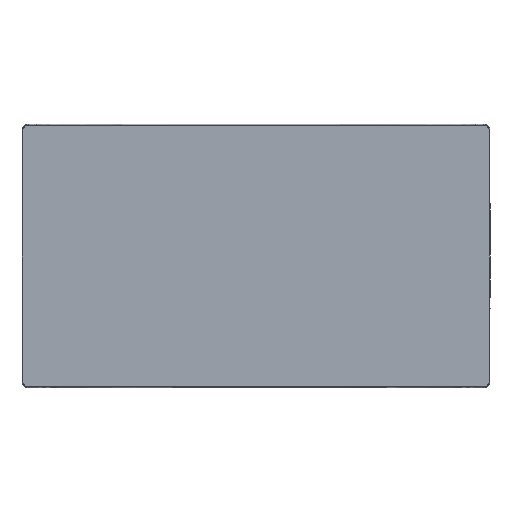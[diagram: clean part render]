
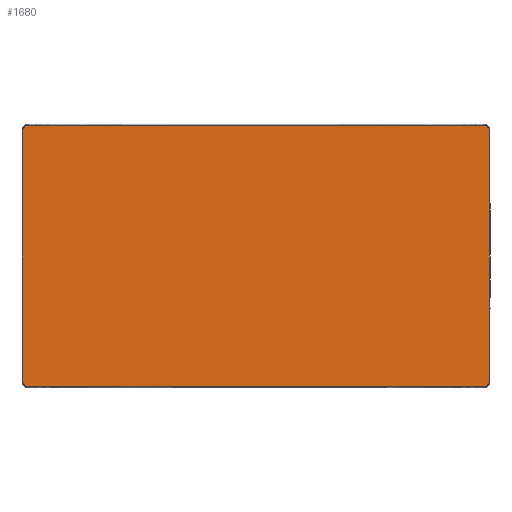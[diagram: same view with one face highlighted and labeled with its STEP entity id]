
A CAD part, top view. The second image highlights one B-rep face of the part: STEP entity #1680.
In plain terms, the highlighted planar face has unit normal (0, 0, 1) as drawn and (0, 0, -1) by its records, which use the part's own axes.
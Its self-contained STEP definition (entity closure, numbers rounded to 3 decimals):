
#1680 = ADVANCED_FACE( '', ( #3621 ), #3622, .T. );
#3621 = FACE_OUTER_BOUND( '', #6547, .T. );
#3622 = PLANE( '', #6548 );
#6547 = EDGE_LOOP( '', ( #9926, #9927, #9928, #9929, #9930, #9931, #9932, #9933 ) );
#6548 = AXIS2_PLACEMENT_3D( '', #9934, #9935, #9936 );
#9926 = ORIENTED_EDGE( '', *, *, #16895, .T. );
#9927 = ORIENTED_EDGE( '', *, *, #16896, .T. );
#9928 = ORIENTED_EDGE( '', *, *, #16897, .T. );
#9929 = ORIENTED_EDGE( '', *, *, #16898, .T. );
#9930 = ORIENTED_EDGE( '', *, *, #16899, .T. );
#9931 = ORIENTED_EDGE( '', *, *, #16900, .T. );
#9932 = ORIENTED_EDGE( '', *, *, #16901, .T. );
#9933 = ORIENTED_EDGE( '', *, *, #16902, .T. );
#9934 = CARTESIAN_POINT( '', ( 0., 0., -2. ) );
#9935 = DIRECTION( '', ( 0., 0., -1. ) );
#9936 = DIRECTION( '', ( -1., 0., 0. ) );
#16895 = EDGE_CURVE( '', #19791, #19792, #19793, .T. );
#16896 = EDGE_CURVE( '', #19792, #19794, #19795, .T. );
#16897 = EDGE_CURVE( '', #19794, #19796, #19797, .T. );
#16898 = EDGE_CURVE( '', #19796, #19798, #19799, .T. );
#16899 = EDGE_CURVE( '', #19798, #19800, #19801, .T. );
#16900 = EDGE_CURVE( '', #19800, #19802, #19803, .T. );
#16901 = EDGE_CURVE( '', #19802, #19804, #19805, .T. );
#16902 = EDGE_CURVE( '', #19804, #19791, #19806, .T. );
#19791 = VERTEX_POINT( '', #24023 );
#19792 = VERTEX_POINT( '', #24024 );
#19793 = LINE( '', #24025, #24026 );
#19794 = VERTEX_POINT( '', #24027 );
#19795 = B_SPLINE_CURVE_WITH_KNOTS( '', 2, ( #24028, #24029, #24030, #24031, #24032, #24033, #24034, #24035, #24036, #24037, #24038, #24039, #24040, #24041, #24042, #24043, #24044 ), .UNSPECIFIED., .F., .F., ( 3, 2, 2, 2, 2, 2, 2, 2, 3 ), ( 0., 0.125, 0.25, 0.375, 0.5, 0.625, 0.75, 0.875, 1. ), .UNSPECIFIED. );
#19796 = VERTEX_POINT( '', #24045 );
#19797 = LINE( '', #24046, #24047 );
#19798 = VERTEX_POINT( '', #24048 );
#19799 = B_SPLINE_CURVE_WITH_KNOTS( '', 2, ( #24049, #24050, #24051, #24052, #24053, #24054, #24055, #24056, #24057, #24058, #24059, #24060, #24061, #24062, #24063, #24064, #24065 ), .UNSPECIFIED., .F., .F., ( 3, 2, 2, 2, 2, 2, 2, 2, 3 ), ( 0., 0.125, 0.25, 0.375, 0.5, 0.625, 0.75, 0.875, 1. ), .UNSPECIFIED. );
#19800 = VERTEX_POINT( '', #24066 );
#19801 = LINE( '', #24067, #24068 );
#19802 = VERTEX_POINT( '', #24069 );
#19803 = B_SPLINE_CURVE_WITH_KNOTS( '', 2, ( #24070, #24071, #24072, #24073, #24074, #24075, #24076, #24077, #24078, #24079, #24080, #24081, #24082, #24083, #24084, #24085, #24086 ), .UNSPECIFIED., .F., .F., ( 3, 2, 2, 2, 2, 2, 2, 2, 3 ), ( 0., 0.125, 0.25, 0.375, 0.5, 0.625, 0.75, 0.875, 1. ), .UNSPECIFIED. );
#19804 = VERTEX_POINT( '', #24087 );
#19805 = LINE( '', #24088, #24089 );
#19806 = B_SPLINE_CURVE_WITH_KNOTS( '', 2, ( #24090, #24091, #24092, #24093, #24094, #24095, #24096, #24097, #24098, #24099, #24100, #24101, #24102, #24103, #24104, #24105, #24106 ), .UNSPECIFIED., .F., .F., ( 3, 2, 2, 2, 2, 2, 2, 2, 3 ), ( 0., 0.125, 0.25, 0.375, 0.5, 0.625, 0.75, 0.875, 1. ), .UNSPECIFIED. );
#24023 = CARTESIAN_POINT( '', ( -286., 164.5, -2. ) );
#24024 = CARTESIAN_POINT( '', ( 286., 164.5, -2. ) );
#24025 = CARTESIAN_POINT( '', ( -293., 164.5, -2. ) );
#24026 = VECTOR( '', #29463, 1000. );
#24027 = CARTESIAN_POINT( '', ( 293., 157.5, -2. ) );
#24028 = CARTESIAN_POINT( '', ( 286., 164.5, -2. ) );
#24029 = CARTESIAN_POINT( '', ( 286.69, 164.5, -2. ) );
#24030 = CARTESIAN_POINT( '', ( 287.366, 164.365, -2. ) );
#24031 = CARTESIAN_POINT( '', ( 288.041, 164.231, -2. ) );
#24032 = CARTESIAN_POINT( '', ( 288.679, 163.967, -2. ) );
#24033 = CARTESIAN_POINT( '', ( 289.315, 163.704, -2. ) );
#24034 = CARTESIAN_POINT( '', ( 289.889, 163.32, -2. ) );
#24035 = CARTESIAN_POINT( '', ( 290.462, 162.938, -2. ) );
#24036 = CARTESIAN_POINT( '', ( 290.95, 162.45, -2. ) );
#24037 = CARTESIAN_POINT( '', ( 291.437, 161.963, -2. ) );
#24038 = CARTESIAN_POINT( '', ( 291.82, 161.389, -2. ) );
#24039 = CARTESIAN_POINT( '', ( 292.203, 160.816, -2. ) );
#24040 = CARTESIAN_POINT( '', ( 292.467, 160.179, -2. ) );
#24041 = CARTESIAN_POINT( '', ( 292.731, 159.542, -2. ) );
#24042 = CARTESIAN_POINT( '', ( 292.865, 158.866, -2. ) );
#24043 = CARTESIAN_POINT( '', ( 293., 158.19, -2. ) );
#24044 = CARTESIAN_POINT( '', ( 293., 157.5, -2. ) );
#24045 = CARTESIAN_POINT( '', ( 293., -157.5, -2. ) );
#24046 = CARTESIAN_POINT( '', ( 293., 164.5, -2. ) );
#24047 = VECTOR( '', #29464, 1000. );
#24048 = CARTESIAN_POINT( '', ( 286., -164.5, -2. ) );
#24049 = CARTESIAN_POINT( '', ( 293., -157.5, -2. ) );
#24050 = CARTESIAN_POINT( '', ( 293., -158.19, -2. ) );
#24051 = CARTESIAN_POINT( '', ( 292.865, -158.866, -2. ) );
#24052 = CARTESIAN_POINT( '', ( 292.731, -159.541, -2. ) );
#24053 = CARTESIAN_POINT( '', ( 292.467, -160.179, -2. ) );
#24054 = CARTESIAN_POINT( '', ( 292.204, -160.815, -2. ) );
#24055 = CARTESIAN_POINT( '', ( 291.82, -161.389, -2. ) );
#24056 = CARTESIAN_POINT( '', ( 291.438, -161.962, -2. ) );
#24057 = CARTESIAN_POINT( '', ( 290.95, -162.45, -2. ) );
#24058 = CARTESIAN_POINT( '', ( 290.463, -162.937, -2. ) );
#24059 = CARTESIAN_POINT( '', ( 289.889, -163.32, -2. ) );
#24060 = CARTESIAN_POINT( '', ( 289.316, -163.703, -2. ) );
#24061 = CARTESIAN_POINT( '', ( 288.679, -163.967, -2. ) );
#24062 = CARTESIAN_POINT( '', ( 288.042, -164.231, -2. ) );
#24063 = CARTESIAN_POINT( '', ( 287.366, -164.365, -2. ) );
#24064 = CARTESIAN_POINT( '', ( 286.69, -164.5, -2. ) );
#24065 = CARTESIAN_POINT( '', ( 286., -164.5, -2. ) );
#24066 = CARTESIAN_POINT( '', ( -286., -164.5, -2. ) );
#24067 = CARTESIAN_POINT( '', ( 293., -164.5, -2. ) );
#24068 = VECTOR( '', #29465, 1000. );
#24069 = CARTESIAN_POINT( '', ( -293., -157.5, -2. ) );
#24070 = CARTESIAN_POINT( '', ( -286., -164.5, -2. ) );
#24071 = CARTESIAN_POINT( '', ( -286.69, -164.5, -2. ) );
#24072 = CARTESIAN_POINT( '', ( -287.366, -164.365, -2. ) );
#24073 = CARTESIAN_POINT( '', ( -288.041, -164.231, -2. ) );
#24074 = CARTESIAN_POINT( '', ( -288.679, -163.967, -2. ) );
#24075 = CARTESIAN_POINT( '', ( -289.315, -163.704, -2. ) );
#24076 = CARTESIAN_POINT( '', ( -289.889, -163.32, -2. ) );
#24077 = CARTESIAN_POINT( '', ( -290.462, -162.938, -2. ) );
#24078 = CARTESIAN_POINT( '', ( -290.95, -162.45, -2. ) );
#24079 = CARTESIAN_POINT( '', ( -291.437, -161.963, -2. ) );
#24080 = CARTESIAN_POINT( '', ( -291.82, -161.389, -2. ) );
#24081 = CARTESIAN_POINT( '', ( -292.203, -160.816, -2. ) );
#24082 = CARTESIAN_POINT( '', ( -292.467, -160.179, -2. ) );
#24083 = CARTESIAN_POINT( '', ( -292.731, -159.542, -2. ) );
#24084 = CARTESIAN_POINT( '', ( -292.865, -158.866, -2. ) );
#24085 = CARTESIAN_POINT( '', ( -293., -158.19, -2. ) );
#24086 = CARTESIAN_POINT( '', ( -293., -157.5, -2. ) );
#24087 = CARTESIAN_POINT( '', ( -293., 157.5, -2. ) );
#24088 = CARTESIAN_POINT( '', ( -293., -164.5, -2. ) );
#24089 = VECTOR( '', #29466, 1000. );
#24090 = CARTESIAN_POINT( '', ( -293., 157.5, -2. ) );
#24091 = CARTESIAN_POINT( '', ( -293., 158.19, -2. ) );
#24092 = CARTESIAN_POINT( '', ( -292.865, 158.866, -2. ) );
#24093 = CARTESIAN_POINT( '', ( -292.731, 159.541, -2. ) );
#24094 = CARTESIAN_POINT( '', ( -292.467, 160.179, -2. ) );
#24095 = CARTESIAN_POINT( '', ( -292.204, 160.815, -2. ) );
#24096 = CARTESIAN_POINT( '', ( -291.82, 161.389, -2. ) );
#24097 = CARTESIAN_POINT( '', ( -291.438, 161.962, -2. ) );
#24098 = CARTESIAN_POINT( '', ( -290.95, 162.45, -2. ) );
#24099 = CARTESIAN_POINT( '', ( -290.463, 162.937, -2. ) );
#24100 = CARTESIAN_POINT( '', ( -289.889, 163.32, -2. ) );
#24101 = CARTESIAN_POINT( '', ( -289.316, 163.703, -2. ) );
#24102 = CARTESIAN_POINT( '', ( -288.679, 163.967, -2. ) );
#24103 = CARTESIAN_POINT( '', ( -288.042, 164.231, -2. ) );
#24104 = CARTESIAN_POINT( '', ( -287.366, 164.365, -2. ) );
#24105 = CARTESIAN_POINT( '', ( -286.69, 164.5, -2. ) );
#24106 = CARTESIAN_POINT( '', ( -286., 164.5, -2. ) );
#29463 = DIRECTION( '', ( 1., 0., 0. ) );
#29464 = DIRECTION( '', ( 0., -1., 0. ) );
#29465 = DIRECTION( '', ( -1., 0., 0. ) );
#29466 = DIRECTION( '', ( 0., 1., 0. ) );
